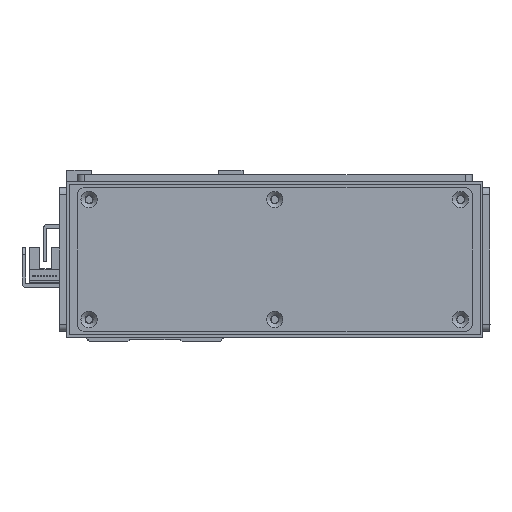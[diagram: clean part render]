
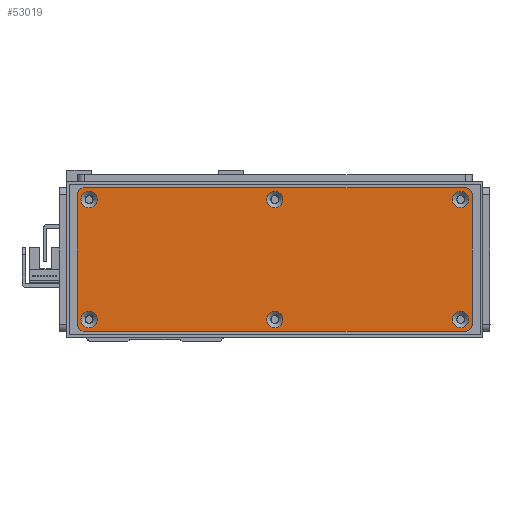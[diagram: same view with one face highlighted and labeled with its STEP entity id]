
A CAD part, left-side view. The second image highlights one B-rep face of the part: STEP entity #53019.
In plain terms, the highlighted planar face has unit normal (-1, 0, 0) as drawn and (0, 0, 1) by its records, which use the part's own axes.
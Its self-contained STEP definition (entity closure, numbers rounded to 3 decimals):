
#2445=FACE_BOUND('',#8744,.T.);
#2446=FACE_BOUND('',#8745,.T.);
#2447=FACE_BOUND('',#8746,.T.);
#2448=FACE_BOUND('',#8747,.T.);
#2449=FACE_BOUND('',#8748,.T.);
#2450=FACE_BOUND('',#8749,.T.);
#3069=PLANE('',#57208);
#5690=FACE_OUTER_BOUND('',#8743,.T.);
#8743=EDGE_LOOP('',(#42012,#42013,#42014,#42015,#42016,#42017,#42018,#42019));
#8744=EDGE_LOOP('',(#42020));
#8745=EDGE_LOOP('',(#42021));
#8746=EDGE_LOOP('',(#42022));
#8747=EDGE_LOOP('',(#42023));
#8748=EDGE_LOOP('',(#42024));
#8749=EDGE_LOOP('',(#42025));
#12177=LINE('',#79557,#18338);
#12180=LINE('',#79565,#18341);
#12183=LINE('',#79573,#18344);
#12186=LINE('',#79580,#18347);
#18338=VECTOR('',#64950,10.);
#18341=VECTOR('',#64959,10.);
#18344=VECTOR('',#64968,10.);
#18347=VECTOR('',#64977,10.);
#23879=CIRCLE('',#57162,3.45);
#23882=CIRCLE('',#57167,3.45);
#23885=CIRCLE('',#57172,3.45);
#23888=CIRCLE('',#57177,3.45);
#23891=CIRCLE('',#57182,3.45);
#23894=CIRCLE('',#57187,3.45);
#23901=CIRCLE('',#57197,3.);
#23902=CIRCLE('',#57200,3.);
#23903=CIRCLE('',#57203,3.);
#23904=CIRCLE('',#57206,3.);
#25882=VERTEX_POINT('',#79473);
#25885=VERTEX_POINT('',#79483);
#25888=VERTEX_POINT('',#79493);
#25891=VERTEX_POINT('',#79503);
#25894=VERTEX_POINT('',#79513);
#25897=VERTEX_POINT('',#79523);
#25908=VERTEX_POINT('',#79550);
#25909=VERTEX_POINT('',#79552);
#25910=VERTEX_POINT('',#79556);
#25911=VERTEX_POINT('',#79560);
#25912=VERTEX_POINT('',#79564);
#25913=VERTEX_POINT('',#79568);
#25914=VERTEX_POINT('',#79572);
#25915=VERTEX_POINT('',#79576);
#31752=EDGE_CURVE('',#25882,#25882,#23879,.T.);
#31757=EDGE_CURVE('',#25885,#25885,#23882,.T.);
#31762=EDGE_CURVE('',#25888,#25888,#23885,.T.);
#31767=EDGE_CURVE('',#25891,#25891,#23888,.T.);
#31772=EDGE_CURVE('',#25894,#25894,#23891,.T.);
#31777=EDGE_CURVE('',#25897,#25897,#23894,.T.);
#31791=EDGE_CURVE('',#25909,#25908,#23901,.T.);
#31793=EDGE_CURVE('',#25910,#25909,#12177,.T.);
#31795=EDGE_CURVE('',#25911,#25910,#23902,.T.);
#31797=EDGE_CURVE('',#25912,#25911,#12180,.T.);
#31799=EDGE_CURVE('',#25913,#25912,#23903,.T.);
#31801=EDGE_CURVE('',#25914,#25913,#12183,.T.);
#31803=EDGE_CURVE('',#25915,#25914,#23904,.T.);
#31805=EDGE_CURVE('',#25908,#25915,#12186,.T.);
#42012=ORIENTED_EDGE('',*,*,#31805,.T.);
#42013=ORIENTED_EDGE('',*,*,#31803,.T.);
#42014=ORIENTED_EDGE('',*,*,#31801,.T.);
#42015=ORIENTED_EDGE('',*,*,#31799,.T.);
#42016=ORIENTED_EDGE('',*,*,#31797,.T.);
#42017=ORIENTED_EDGE('',*,*,#31795,.T.);
#42018=ORIENTED_EDGE('',*,*,#31793,.T.);
#42019=ORIENTED_EDGE('',*,*,#31791,.T.);
#42020=ORIENTED_EDGE('',*,*,#31752,.T.);
#42021=ORIENTED_EDGE('',*,*,#31757,.T.);
#42022=ORIENTED_EDGE('',*,*,#31762,.T.);
#42023=ORIENTED_EDGE('',*,*,#31767,.T.);
#42024=ORIENTED_EDGE('',*,*,#31772,.T.);
#42025=ORIENTED_EDGE('',*,*,#31777,.T.);
#53019=ADVANCED_FACE('',(#5690,#2445,#2446,#2447,#2448,#2449,#2450),#3069,
 .T.);
#57162=AXIS2_PLACEMENT_3D('',#79474,#64858,#64859);
#57167=AXIS2_PLACEMENT_3D('',#79484,#64870,#64871);
#57172=AXIS2_PLACEMENT_3D('',#79494,#64882,#64883);
#57177=AXIS2_PLACEMENT_3D('',#79504,#64894,#64895);
#57182=AXIS2_PLACEMENT_3D('',#79514,#64906,#64907);
#57187=AXIS2_PLACEMENT_3D('',#79524,#64918,#64919);
#57197=AXIS2_PLACEMENT_3D('',#79553,#64945,#64946);
#57200=AXIS2_PLACEMENT_3D('',#79561,#64954,#64955);
#57203=AXIS2_PLACEMENT_3D('',#79569,#64963,#64964);
#57206=AXIS2_PLACEMENT_3D('',#79577,#64972,#64973);
#57208=AXIS2_PLACEMENT_3D('',#79581,#64978,#64979);
#64858=DIRECTION('center_axis',(0.,0.,-1.));
#64859=DIRECTION('ref_axis',(1.,0.,0.));
#64870=DIRECTION('center_axis',(0.,0.,-1.));
#64871=DIRECTION('ref_axis',(1.,0.,0.));
#64882=DIRECTION('center_axis',(0.,0.,-1.));
#64883=DIRECTION('ref_axis',(1.,0.,0.));
#64894=DIRECTION('center_axis',(0.,0.,-1.));
#64895=DIRECTION('ref_axis',(1.,0.,0.));
#64906=DIRECTION('center_axis',(0.,0.,-1.));
#64907=DIRECTION('ref_axis',(1.,0.,0.));
#64918=DIRECTION('center_axis',(0.,0.,-1.));
#64919=DIRECTION('ref_axis',(1.,0.,0.));
#64945=DIRECTION('center_axis',(0.,0.,1.));
#64946=DIRECTION('ref_axis',(-1.,0.,0.));
#64950=DIRECTION('',(0.,1.,0.));
#64954=DIRECTION('center_axis',(0.,0.,1.));
#64955=DIRECTION('ref_axis',(0.,1.,0.));
#64959=DIRECTION('',(1.,0.,0.));
#64963=DIRECTION('center_axis',(0.,0.,1.));
#64964=DIRECTION('ref_axis',(1.,0.,0.));
#64968=DIRECTION('',(0.,-1.,0.));
#64972=DIRECTION('center_axis',(0.,0.,1.));
#64973=DIRECTION('ref_axis',(0.,-1.,0.));
#64977=DIRECTION('',(-1.,0.,0.));
#64978=DIRECTION('center_axis',(0.,0.,1.));
#64979=DIRECTION('ref_axis',(1.,0.,0.));
#79473=CARTESIAN_POINT('',(-3.45,25.5,1.5));
#79474=CARTESIAN_POINT('Origin',(0.,25.5,1.5));
#79483=CARTESIAN_POINT('',(75.55,-25.5,1.5));
#79484=CARTESIAN_POINT('Origin',(79.,-25.5,1.5));
#79493=CARTESIAN_POINT('',(-82.45,25.5,1.5));
#79494=CARTESIAN_POINT('Origin',(-79.,25.5,1.5));
#79503=CARTESIAN_POINT('',(75.55,25.5,1.5));
#79504=CARTESIAN_POINT('Origin',(79.,25.5,1.5));
#79513=CARTESIAN_POINT('',(-82.45,-25.5,1.5));
#79514=CARTESIAN_POINT('Origin',(-79.,-25.5,1.5));
#79523=CARTESIAN_POINT('',(-3.45,-25.5,1.5));
#79524=CARTESIAN_POINT('Origin',(0.,-25.5,1.5));
#79550=CARTESIAN_POINT('',(81.,30.5,1.5));
#79552=CARTESIAN_POINT('',(84.,27.5,1.5));
#79553=CARTESIAN_POINT('Origin',(81.,27.5,1.5));
#79556=CARTESIAN_POINT('',(84.,-27.5,1.5));
#79557=CARTESIAN_POINT('',(84.,27.5,1.5));
#79560=CARTESIAN_POINT('',(81.,-30.5,1.5));
#79561=CARTESIAN_POINT('Origin',(81.,-27.5,1.5));
#79564=CARTESIAN_POINT('',(-81.,-30.5,1.5));
#79565=CARTESIAN_POINT('',(81.,-30.5,1.5));
#79568=CARTESIAN_POINT('',(-84.,-27.5,1.5));
#79569=CARTESIAN_POINT('Origin',(-81.,-27.5,1.5));
#79572=CARTESIAN_POINT('',(-84.,27.5,1.5));
#79573=CARTESIAN_POINT('',(-84.,-27.5,1.5));
#79576=CARTESIAN_POINT('',(-81.,30.5,1.5));
#79577=CARTESIAN_POINT('Origin',(-81.,27.5,1.5));
#79580=CARTESIAN_POINT('',(-81.,30.5,1.5));
#79581=CARTESIAN_POINT('Origin',(0.,0.,
1.5));
